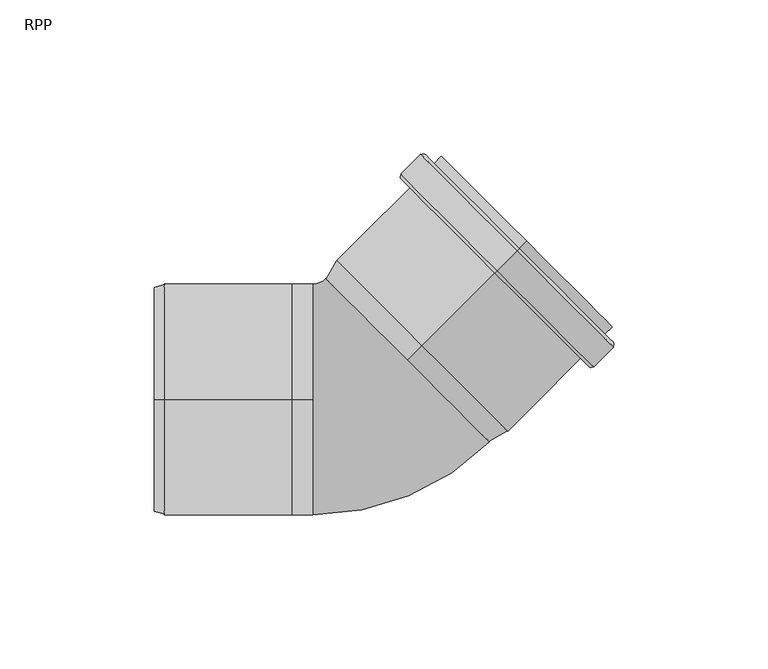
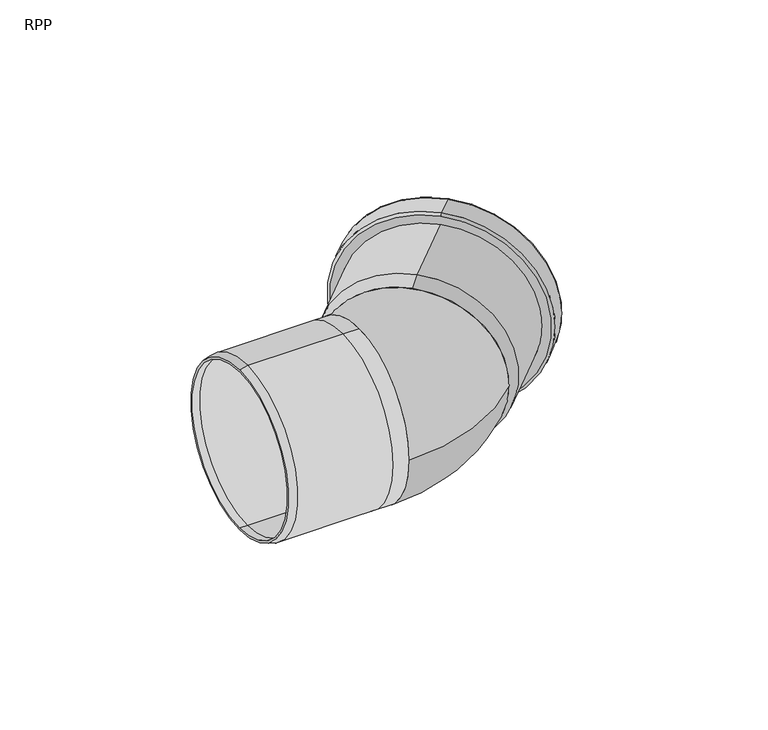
"""IFC4 building model written with IfcOpenShell, lengths in millimetres: pipe fitting geometry, RAUPIANO PLUS Bend_For Gully : RPP."""

from ifc_helpers import new_model, si_unit, point, frame, origin, place, context, project, spatial, polyline, circle_curve, ellipse_curve, trimmed, source, transform, mapped, element, save
from ifc_brep_helpers import plane_surface, cylinder_surface, revolved_surface, advanced_brep


def rpp_debc8a0b(model_context):
    return source(origin(), model_context, "Body", "AdvancedBrep", [
        advanced_brep(
        [(-18.0, 0.0, 37.5), (-18.0, 0.0, -37.5), (-24.8, 0.0, -37.5), (-24.8, 0.0, 37.5), (-24.8, 0.0, 35.6), (-24.8, 0.0, -35.6), (-18.0, 0.0, -35.6), (-18.0, 0.0, 35.6), (-66.2, 0.0, 35.6), (-66.2, 0.0, -35.6), (-69.6, 0.0, 35.6), (-69.6, 0.0, -35.6), (-66.2, 0.0, 37.5), (-66.2, 0.0, -37.5), (-69.6, 0.0, -36.5889727), (-69.6, 0.0, 36.5889727)],
        [
            (0, 1, circle_curve(frame((-18.0, 0.0, 0.0), z_axis=(-1.0, 0.0, 0.0), x_axis=(0.0, 0.0, -1.0)), 37.5)),
            (1, 2),
            (2, 3, circle_curve(frame((-24.8, 0.0, 0.0), z_axis=(1.0, 0.0, 0.0), x_axis=(0.0, 0.0, -1.0)), 37.5)),
            (3, 0),
            (4, 5, circle_curve(frame((-24.8, 0.0, 0.0), z_axis=(-1.0, 0.0, 0.0), x_axis=(0.0, 0.0, -1.0)), 35.6)),
            (5, 6),
            (6, 7, circle_curve(frame((-18.0, 0.0, 0.0), z_axis=(1.0, 0.0, 0.0), x_axis=(0.0, 0.0, -1.0)), 35.6)),
            (7, 4),
            (8, 9, circle_curve(frame((-66.2, 0.0, 0.0), z_axis=(-1.0, 0.0, 0.0), x_axis=(0.0, 0.0, -1.0)), 35.6)),
            (9, 5),
            (4, 8),
            (10, 11, circle_curve(frame((-69.6, 0.0, 0.0), z_axis=(-1.0, 0.0, 0.0), x_axis=(0.0, 0.0, -1.0)), 35.6)),
            (11, 9),
            (8, 10),
            (12, 13, circle_curve(frame((-66.2, 0.0, 0.0), z_axis=(-1.0, 0.0, 0.0), x_axis=(0.0, 0.0, -1.0)), 37.5)),
            (13, 14),
            (14, 15, circle_curve(frame((-69.6, 0.0, 0.0), z_axis=(1.0, 0.0, 0.0), x_axis=(0.0, 0.0, -1.0)), 36.5889727)),
            (15, 12),
            (2, 13),
            (12, 3),
            (1, 0, circle_curve(frame((-18.0, 0.0, 0.0), z_axis=(-1.0, 0.0, 0.0), x_axis=(0.0, 0.0, 1.0)), 37.5)),
            (3, 2, circle_curve(frame((-24.8, 0.0, 0.0), z_axis=(1.0, 0.0, 0.0), x_axis=(0.0, 0.0, 1.0)), 37.5)),
            (6, 7, circle_curve(frame((-18.0, 0.0, 0.0), z_axis=(-1.0, 0.0, 0.0), x_axis=(0.0, 0.0, 1.0)), 35.6)),
            (5, 4, circle_curve(frame((-24.8, 0.0, 0.0), z_axis=(-1.0, 0.0, 0.0), x_axis=(0.0, 0.0, 1.0)), 35.6)),
            (9, 8, circle_curve(frame((-66.2, 0.0, 0.0), z_axis=(-1.0, 0.0, 0.0), x_axis=(0.0, 0.0, 1.0)), 35.6)),
            (11, 10, circle_curve(frame((-69.6, 0.0, 0.0), z_axis=(-1.0, 0.0, 0.0), x_axis=(0.0, 0.0, 1.0)), 35.6)),
            (14, 15, circle_curve(frame((-69.6, 0.0, 0.0), z_axis=(-1.0, 0.0, 0.0), x_axis=(0.0, 0.0, 1.0)), 36.5889727)),
            (13, 12, circle_curve(frame((-66.2, 0.0, 0.0), z_axis=(-1.0, 0.0, 0.0), x_axis=(0.0, 0.0, 1.0)), 37.5)),
        ],
        [
            cylinder_surface(frame((0.0, 0.0, 0.0), z_axis=(1.0, 0.0, 0.0), x_axis=(0.0, 0.0, -1.0)), 37.5),
            revolved_surface(polyline([(-18.0, 0.0, -35.6), (-24.8, 0.0, -35.6)]), (0.0, 0.0, 0.0), (1.0, 0.0, 0.0)),
            revolved_surface(polyline([(-24.8, 0.0, -35.6), (-66.2, 0.0, -35.6)]), (0.0, 0.0, 0.0), (1.0, 0.0, 0.0)),
            revolved_surface(polyline([(-66.2, 0.0, -35.6), (-69.6, 0.0, -35.6)]), (0.0, 0.0, 0.0), (1.0, 0.0, 0.0)),
            revolved_surface(polyline([(-69.6, 0.0, -36.5889727), (-66.2, 0.0, -37.5)]), (0.0, 0.0, 0.0), (1.0, 0.0, 0.0)),
            cylinder_surface(frame((0.0, 0.0, 0.0), z_axis=(1.0, 0.0, 0.0), x_axis=(0.0, 0.0, 1.0)), 37.5),
            plane_surface(frame((-18.0, 0.0, 0.0), z_axis=(1.0, 0.0, 0.0), x_axis=(0.0, 0.0, 1.0))),
            revolved_surface(polyline([(-18.0, 0.0, 35.6), (-24.8, 0.0, 35.6)]), (0.0, 0.0, 0.0), (1.0, 0.0, 0.0)),
            revolved_surface(polyline([(-24.8, 0.0, 35.6), (-66.2, 0.0, 35.6)]), (0.0, 0.0, 0.0), (1.0, 0.0, 0.0)),
            revolved_surface(polyline([(-66.2, 0.0, 35.6), (-69.6, 0.0, 35.6)]), (0.0, 0.0, 0.0), (1.0, 0.0, 0.0)),
            plane_surface(frame((-69.6, 0.0, 0.0), z_axis=(-1.0, 0.0, 0.0), x_axis=(0.0, 0.0, 1.0))),
            revolved_surface(polyline([(-69.6, 0.0, 36.5889727), (-66.2, 0.0, 37.5)]), (0.0, 0.0, 0.0), (1.0, 0.0, 0.0)),
        ],
        [
            (0, [[1, 2, 3, 4]]),
            (1, [[5, 6, 7, 8]]),
            (2, [[9, 10, -5, 11]]),
            (3, [[12, 13, -9, 14]]),
            (4, [[15, 16, 17, 18]]),
            (0, [[-3, 19, -15, 20]]),
            (5, [[21, -4, 22, -2]]),
            (6, [[-21, -1], [23, -7]]),
            (7, [[24, -8, -23, -6]]),
            (8, [[25, -11, -24, -10]]),
            (9, [[26, -14, -25, -13]]),
            (10, [[27, -17], [-26, -12]]),
            (11, [[28, -18, -27, -16]]),
            (5, [[-22, -20, -28, -19]]),
        ],
    ),
        advanced_brep(
        [(12.7279221, 12.7279221, 37.5), (12.7279221, 12.7279221, -37.5), (17.3948268, 17.3948268, -39.2684647), (17.3948268, 17.3948268, 39.2684647), (17.3948268, 17.3948268, 37.3684647), (17.3948268, 17.3948268, -37.3684647), (12.7279221, 12.7279221, -35.6), (12.7279221, 12.7279221, 35.6), (49.0024999, 49.0024999, 37.3684647), (49.0024999, 49.0024999, -37.3684647), (51.3359523, 51.3359523, 37.3684647), (51.3359523, 51.3359523, -37.3684647), (49.0024999, 49.0024999, 39.2684647), (49.0024999, 49.0024999, -39.2684647), (51.3359523, 51.3359523, -39.2684647), (51.3359523, 51.3359523, 39.2684647)],
        [
            (0, 1, circle_curve(frame((12.7279221, 12.7279221, 0.0), z_axis=(0.7071067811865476, 0.7071067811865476, 0.0), x_axis=(0.0, 0.0, -1.0)), 37.5)),
            (1, 2),
            (2, 3, circle_curve(frame((17.3948268, 17.3948268, 0.0), z_axis=(-0.7071067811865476, -0.7071067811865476, 0.0), x_axis=(0.0, 0.0, -1.0)), 39.2684647)),
            (3, 0),
            (4, 5, circle_curve(frame((17.3948268, 17.3948268, 0.0), z_axis=(0.7071067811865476, 0.7071067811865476, 0.0), x_axis=(0.0, 0.0, -1.0)), 37.3684647)),
            (5, 6),
            (6, 7, circle_curve(frame((12.7279221, 12.7279221, 0.0), z_axis=(-0.7071067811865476, -0.7071067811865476, 0.0), x_axis=(0.0, 0.0, -1.0)), 35.6)),
            (7, 4),
            (8, 9, circle_curve(frame((49.0024999, 49.0024999, 0.0), z_axis=(0.7071067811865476, 0.7071067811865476, 0.0), x_axis=(0.0, 0.0, -1.0)), 37.3684647)),
            (9, 5),
            (4, 8),
            (10, 11, circle_curve(frame((51.3359523, 51.3359523, 0.0), z_axis=(0.7071067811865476, 0.7071067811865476, 0.0), x_axis=(0.0, 0.0, -1.0)), 37.3684647)),
            (11, 9),
            (8, 10),
            (12, 13, circle_curve(frame((49.0024999, 49.0024999, 0.0), z_axis=(0.7071067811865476, 0.7071067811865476, 0.0), x_axis=(0.0, 0.0, -1.0)), 39.2684647)),
            (13, 14),
            (14, 15, circle_curve(frame((51.3359523, 51.3359523, 0.0), z_axis=(-0.7071067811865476, -0.7071067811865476, 0.0), x_axis=(0.0, 0.0, -1.0)), 39.2684647)),
            (15, 12),
            (2, 13),
            (12, 3),
            (1, 0, circle_curve(frame((12.7279221, 12.7279221, 0.0), z_axis=(0.7071067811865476, 0.7071067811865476, 0.0), x_axis=(0.0, 0.0, 1.0)), 37.5)),
            (3, 2, circle_curve(frame((17.3948268, 17.3948268, 0.0), z_axis=(-0.7071067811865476, -0.7071067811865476, 0.0), x_axis=(0.0, 0.0, 1.0)), 39.2684647)),
            (6, 7, circle_curve(frame((12.7279221, 12.7279221, 0.0), z_axis=(0.7071067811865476, 0.7071067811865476, 0.0), x_axis=(0.0, 0.0, 1.0)), 35.6)),
            (5, 4, circle_curve(frame((17.3948268, 17.3948268, 0.0), z_axis=(0.7071067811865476, 0.7071067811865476, 0.0), x_axis=(0.0, 0.0, 1.0)), 37.3684647)),
            (9, 8, circle_curve(frame((49.0024999, 49.0024999, 0.0), z_axis=(0.7071067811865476, 0.7071067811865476, 0.0), x_axis=(0.0, 0.0, 1.0)), 37.3684647)),
            (11, 10, circle_curve(frame((51.3359523, 51.3359523, 0.0), z_axis=(0.7071067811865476, 0.7071067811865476, 0.0), x_axis=(0.0, 0.0, 1.0)), 37.3684647)),
            (14, 15, circle_curve(frame((51.3359523, 51.3359523, 0.0), z_axis=(0.7071067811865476, 0.7071067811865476, 0.0), x_axis=(0.0, 0.0, 1.0)), 39.2684647)),
            (13, 12, circle_curve(frame((49.0024999, 49.0024999, 0.0), z_axis=(0.7071067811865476, 0.7071067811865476, 0.0), x_axis=(0.0, 0.0, 1.0)), 39.2684647)),
        ],
        [
            revolved_surface(polyline([(17.3948268, 17.3948268, -39.2684647), (12.7279221, 12.7279221, -37.5)]), (0.0, 0.0, 0.0), (-0.7071067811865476, -0.7071067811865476, 0.0)),
            revolved_surface(polyline([(12.7279221, 12.7279221, -35.6), (17.3948268, 17.3948268, -37.3684647)]), (0.0, 0.0, 0.0), (-0.7071067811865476, -0.7071067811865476, 0.0)),
            revolved_surface(polyline([(17.394826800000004, 17.394826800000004, -37.3684647), (49.0024999, 49.0024999, -37.3684647)]), (0.0, 0.0, 0.0), (-0.7071067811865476, -0.7071067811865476, 0.0)),
            revolved_surface(polyline([(49.0024999, 49.0024999, -37.3684647), (51.33595230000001, 51.33595230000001, -37.3684647)]), (0.0, 0.0, 0.0), (-0.7071067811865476, -0.7071067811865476, 0.0)),
            cylinder_surface(frame((0.0, 0.0, 0.0), z_axis=(-0.7071067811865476, -0.7071067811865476, 0.0), x_axis=(0.0, 0.0, -1.0)), 39.2684647),
            revolved_surface(polyline([(17.3948268, 17.3948268, 39.2684647), (12.7279221, 12.7279221, 37.5)]), (0.0, 0.0, 0.0), (-0.7071067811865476, -0.7071067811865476, 0.0)),
            plane_surface(frame((12.7279221, 12.7279221, 0.0), z_axis=(-0.7071067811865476, -0.7071067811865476, 0.0), x_axis=(0.0, 0.0, 1.0))),
            revolved_surface(polyline([(12.7279221, 12.7279221, 35.6), (17.3948268, 17.3948268, 37.3684647)]), (0.0, 0.0, 0.0), (-0.7071067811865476, -0.7071067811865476, 0.0)),
            revolved_surface(polyline([(17.394826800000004, 17.394826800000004, 37.3684647), (49.0024999, 49.0024999, 37.3684647)]), (0.0, 0.0, 0.0), (-0.7071067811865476, -0.7071067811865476, 0.0)),
            revolved_surface(polyline([(49.0024999, 49.0024999, 37.3684647), (51.33595230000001, 51.33595230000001, 37.3684647)]), (0.0, 0.0, 0.0), (-0.7071067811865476, -0.7071067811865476, 0.0)),
            plane_surface(frame((51.3359523, 51.3359523, 0.0), z_axis=(0.7071067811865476, 0.7071067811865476, 0.0), x_axis=(0.0, 0.0, 1.0))),
            cylinder_surface(frame((0.0, 0.0, 0.0), z_axis=(-0.7071067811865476, -0.7071067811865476, 0.0), x_axis=(0.0, 0.0, 1.0)), 39.2684647),
        ],
        [
            (0, [[1, 2, 3, 4]]),
            (1, [[5, 6, 7, 8]]),
            (2, [[9, 10, -5, 11]]),
            (3, [[12, 13, -9, 14]]),
            (4, [[15, 16, 17, 18]]),
            (4, [[-3, 19, -15, 20]]),
            (5, [[21, -4, 22, -2]]),
            (6, [[-21, -1], [23, -7]]),
            (7, [[24, -8, -23, -6]]),
            (8, [[25, -11, -24, -10]]),
            (9, [[26, -14, -25, -13]]),
            (10, [[27, -17], [-26, -12]]),
            (11, [[28, -18, -27, -16]]),
            (11, [[-22, -20, -28, -19]]),
        ],
    ),
        advanced_brep(
        [(49.0024999, 49.0024999, -39.2684647), (49.0024999, 49.0024999, 39.2684647), (41.082904, 41.082904, 39.2684647), (41.082904, 41.082904, -39.2684647), (48.2953932, 48.2953932, -44.2684647), (48.2953932, 48.2953932, 44.2684647), (49.0024999, 49.0024999, 43.2684647), (49.0024999, 49.0024999, -43.2684647), (41.7900108, 41.7900108, -44.2684647), (41.7900108, 41.7900108, 44.2684647), (41.082904, 41.082904, -43.2684647), (41.082904, 41.082904, 43.2684647)],
        [
            (0, 1, circle_curve(frame((49.0024999, 49.0024999, 0.0), z_axis=(0.7071067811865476, 0.7071067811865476, 0.0), x_axis=(0.0, 0.0, 1.0)), 39.2684647)),
            (1, 2),
            (2, 3, circle_curve(frame((41.082904, 41.082904, 0.0), z_axis=(-0.7071067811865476, -0.7071067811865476, 0.0), x_axis=(0.0, 0.0, 1.0)), 39.2684647)),
            (3, 0),
            (4, 5, circle_curve(frame((48.2953932, 48.2953932, 0.0), z_axis=(0.7071067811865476, 0.7071067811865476, 0.0), x_axis=(0.0, 0.0, 1.0)), 44.2684647)),
            (5, 6, circle_curve(frame((48.2953932, 48.2953932, 43.2684647), z_axis=(-0.7071067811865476, 0.7071067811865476, 0.0), x_axis=(-0.7071067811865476, -0.7071067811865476, 0.0)), 1.0)),
            (6, 7, circle_curve(frame((49.0024999, 49.0024999, 0.0), z_axis=(-0.7071067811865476, -0.7071067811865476, 0.0), x_axis=(0.0, 0.0, 1.0)), 43.2684647)),
            (7, 4, circle_curve(frame((48.2953932, 48.2953932, -43.2684647), z_axis=(-0.7071067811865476, 0.7071067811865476, 0.0), x_axis=(-0.7071067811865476, -0.7071067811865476, 0.0)), 1.0)),
            (8, 9, circle_curve(frame((41.7900108, 41.7900108, 0.0), z_axis=(0.7071067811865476, 0.7071067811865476, 0.0), x_axis=(0.0, 0.0, 1.0)), 44.2684647)),
            (9, 5),
            (4, 8),
            (10, 11, circle_curve(frame((41.082904, 41.082904, 0.0), z_axis=(0.7071067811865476, 0.7071067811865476, 0.0), x_axis=(0.0, 0.0, 1.0)), 43.2684647)),
            (11, 9, circle_curve(frame((41.7900108, 41.7900108, 43.2684647), z_axis=(-0.7071067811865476, 0.7071067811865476, 0.0), x_axis=(-0.7071067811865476, -0.7071067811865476, 0.0)), 1.0)),
            (8, 10, circle_curve(frame((41.7900108, 41.7900108, -43.2684647), z_axis=(-0.7071067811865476, 0.7071067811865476, 0.0), x_axis=(-0.7071067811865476, -0.7071067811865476, 0.0)), 1.0)),
            (1, 0, circle_curve(frame((49.0024999, 49.0024999, 0.0), z_axis=(0.7071067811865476, 0.7071067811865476, 0.0), x_axis=(0.0, 0.0, -1.0)), 39.2684647)),
            (3, 2, circle_curve(frame((41.082904, 41.082904, 0.0), z_axis=(-0.7071067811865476, -0.7071067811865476, 0.0), x_axis=(0.0, 0.0, -1.0)), 39.2684647)),
            (6, 7, circle_curve(frame((49.0024999, 49.0024999, 0.0), z_axis=(0.7071067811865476, 0.7071067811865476, 0.0), x_axis=(0.0, 0.0, -1.0)), 43.2684647)),
            (5, 4, circle_curve(frame((48.2953932, 48.2953932, 0.0), z_axis=(0.7071067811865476, 0.7071067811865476, 0.0), x_axis=(0.0, 0.0, -1.0)), 44.2684647)),
            (9, 8, circle_curve(frame((41.7900108, 41.7900108, 0.0), z_axis=(0.7071067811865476, 0.7071067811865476, 0.0), x_axis=(0.0, 0.0, -1.0)), 44.2684647)),
            (11, 10, circle_curve(frame((41.082904, 41.082904, 0.0), z_axis=(0.7071067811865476, 0.7071067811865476, 0.0), x_axis=(0.0, 0.0, -1.0)), 43.2684647)),
        ],
        [
            revolved_surface(polyline([(41.082904, 41.082904, 39.2684647), (49.0024999, 49.0024999, 39.2684647)]), (49.0024999, 49.0024999, 0.0), (-0.7071067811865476, -0.7071067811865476, 0.0)),
            revolved_surface(trimmed(ellipse_curve(frame((48.2953932, 48.2953932, 43.2684647), z_axis=(0.7071067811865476, -0.7071067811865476, 0.0), x_axis=(-0.7071067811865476, -0.7071067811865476, 0.0)), 1.0, 1.0), [point((49.0024999, 49.0024999, 43.2684647))], [point((48.2953932, 48.2953932, 44.2684647))], True, "CARTESIAN"), (49.0024999, 49.0024999, 0.0), (-0.7071067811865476, -0.7071067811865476, 0.0)),
            cylinder_surface(frame((49.0024999, 49.0024999, 0.0), z_axis=(-0.7071067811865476, -0.7071067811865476, 0.0), x_axis=(0.0, 0.0, 1.0)), 44.2684647),
            revolved_surface(trimmed(ellipse_curve(frame((41.7900108, 41.7900108, 43.2684647), z_axis=(0.7071067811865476, -0.7071067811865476, 0.0), x_axis=(-0.7071067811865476, -0.7071067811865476, 0.0)), 1.0, 1.0), [point((41.7900108, 41.7900108, 44.2684647))], [point((41.082904, 41.082904, 43.2684647))], True, "CARTESIAN"), (49.0024999, 49.0024999, 0.0), (-0.7071067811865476, -0.7071067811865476, 0.0)),
            revolved_surface(polyline([(41.082904, 41.082904, -39.2684647), (49.0024999, 49.0024999, -39.2684647)]), (49.0024999, 49.0024999, 0.0), (-0.7071067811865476, -0.7071067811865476, 0.0)),
            plane_surface(frame((49.0024999, 49.0024999, 0.0), z_axis=(0.7071067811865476, 0.7071067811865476, 0.0), x_axis=(0.0, 0.0, -1.0))),
            revolved_surface(trimmed(ellipse_curve(frame((48.2953932, 48.2953932, -43.2684647), z_axis=(-0.7071067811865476, 0.7071067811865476, 0.0), x_axis=(-0.7071067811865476, -0.7071067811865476, 0.0)), 1.0, 1.0), [point((49.0024999, 49.0024999, -43.2684647))], [point((48.2953932, 48.2953932, -44.2684647))], True, "CARTESIAN"), (49.0024999, 49.0024999, 0.0), (-0.7071067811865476, -0.7071067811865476, 0.0)),
            cylinder_surface(frame((49.0024999, 49.0024999, 0.0), z_axis=(-0.7071067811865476, -0.7071067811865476, 0.0), x_axis=(0.0, 0.0, -1.0)), 44.2684647),
            revolved_surface(trimmed(ellipse_curve(frame((41.7900108, 41.7900108, -43.2684647), z_axis=(-0.7071067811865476, 0.7071067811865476, 0.0), x_axis=(-0.7071067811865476, -0.7071067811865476, 0.0)), 1.0, 1.0), [point((41.7900108, 41.7900108, -44.2684647))], [point((41.082904, 41.082904, -43.2684647))], True, "CARTESIAN"), (49.0024999, 49.0024999, 0.0), (-0.7071067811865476, -0.7071067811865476, 0.0)),
            plane_surface(frame((41.082904, 41.082904, 0.0), z_axis=(-0.7071067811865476, -0.7071067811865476, 0.0), x_axis=(0.0, 0.0, -1.0))),
        ],
        [
            (0, [[1, 2, 3, 4]]),
            (1, [[5, 6, 7, 8]]),
            (2, [[9, 10, -5, 11]]),
            (3, [[12, 13, -9, 14]]),
            (4, [[15, -4, 16, -2]]),
            (5, [[17, -7], [-15, -1]]),
            (6, [[18, -8, -17, -6]]),
            (7, [[19, -11, -18, -10]]),
            (8, [[20, -14, -19, -13]]),
            (9, [[-20, -12], [-16, -3]]),
        ],
    ),
        advanced_brep(
        [(-18.0, -37.5, 0.0), (-18.0, 37.5, 0.0), (-18.0, -35.6, 0.0), (-18.0, 35.6, 0.0), (39.2444264, -13.7885822, 0.0), (-13.7885822, 39.2444264, 0.0), (37.9009235, -12.4450793, 0.0), (-12.4450793, 37.9009235, 0.0)],
        [
            (0, 1, circle_curve(frame((-18.0, 0.0, 0.0), z_axis=(-1.0, 0.0, 0.0), x_axis=(0.0, 1.0, 0.0)), 37.5)),
            (1, 0, circle_curve(frame((-18.0, 0.0, 0.0), z_axis=(-1.0, 0.0, 0.0), x_axis=(0.0, 1.0, 0.0)), 37.5)),
            (2, 3, circle_curve(frame((-18.0, 0.0, 0.0), z_axis=(1.0, 0.0, 0.0), x_axis=(0.0, 1.0, 0.0)), 35.6)),
            (3, 2, circle_curve(frame((-18.0, 0.0, 0.0), z_axis=(1.0, 0.0, 0.0), x_axis=(0.0, 1.0, 0.0)), 35.6)),
            (4, 5, circle_curve(frame((12.7279221, 12.7279221, 0.0), z_axis=(0.7071067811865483, 0.7071067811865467, 0.0), x_axis=(-0.7071067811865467, 0.7071067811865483, 0.0)), 37.5)),
            (5, 4, circle_curve(frame((12.7279221, 12.7279221, 0.0), z_axis=(0.7071067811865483, 0.7071067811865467, 0.0), x_axis=(-0.7071067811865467, 0.7071067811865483, 0.0)), 37.5)),
            (6, 7, circle_curve(frame((12.7279221, 12.7279221, 0.0), z_axis=(-0.7071067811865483, -0.7071067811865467, 0.0), x_axis=(-0.7071067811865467, 0.7071067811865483, 0.0)), 35.6)),
            (7, 6, circle_curve(frame((12.7279221, 12.7279221, 0.0), z_axis=(-0.7071067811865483, -0.7071067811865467, 0.0), x_axis=(-0.7071067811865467, 0.7071067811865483, 0.0)), 35.6)),
            (5, 1, circle_curve(frame((-18.0, 43.4558441, 0.0), z_axis=(0.0, 0.0, -1.0), x_axis=(0.0, -1.0, 0.0)), 5.9558441)),
            (0, 4, circle_curve(frame((-18.0, 43.4558441, 0.0), z_axis=(0.0, 0.0, 1.0), x_axis=(0.0, -1.0, 0.0)), 80.9558441)),
            (7, 3, circle_curve(frame((-18.0, 43.4558441, 0.0), z_axis=(0.0, 0.0, -1.0), x_axis=(0.0, -1.0, 0.0)), 7.8558441)),
            (2, 6, circle_curve(frame((-18.0, 43.4558441, 0.0), z_axis=(0.0, 0.0, 1.0), x_axis=(0.0, -1.0, 0.0)), 79.0558441)),
        ],
        [
            plane_surface(frame((-18.0, 0.0, 0.0), z_axis=(-1.0, 0.0, 0.0), x_axis=(0.0, 0.0, 1.0))),
            plane_surface(frame((12.7279221, 12.7279221, 0.0), z_axis=(0.7071067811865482, 0.707106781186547, 0.0), x_axis=(0.0, 0.0, 1.0))),
            revolved_surface(trimmed(ellipse_curve(frame((-18.0, 0.0, 0.0), z_axis=(-1.0, 0.0, 0.0), x_axis=(0.0, 1.0, 0.0)), 37.5, 37.5), [point((-18.0, -37.5, 0.0))], [point((-18.0, 37.5, 0.0))], True, "CARTESIAN"), (-18.0, 43.4558441, 0.0), (0.0, 0.0, 1.0)),
            revolved_surface(trimmed(ellipse_curve(frame((-18.0, 0.0, 0.0), z_axis=(-1.0, 0.0, 0.0), x_axis=(0.0, 1.0, 0.0)), 37.5, 37.5), [point((-18.0, 37.5, 0.0))], [point((-18.0, -37.5, 0.0))], True, "CARTESIAN"), (-18.0, 43.4558441, 0.0), (0.0, 0.0, 1.0)),
            revolved_surface(trimmed(ellipse_curve(frame((-18.0, 0.0, 0.0), z_axis=(1.0, 0.0, 0.0), x_axis=(0.0, 1.0, 0.0)), 35.6, 35.6), [point((-18.0, -35.6, 0.0))], [point((-18.0, 35.6, 0.0))], True, "CARTESIAN"), (-18.0, 43.4558441, 0.0), (0.0, 0.0, 1.0)),
            revolved_surface(trimmed(ellipse_curve(frame((-18.0, 0.0, 0.0), z_axis=(1.0, 0.0, 0.0), x_axis=(0.0, 1.0, 0.0)), 35.6, 35.6), [point((-18.0, 35.6, 0.0))], [point((-18.0, -35.6, 0.0))], True, "CARTESIAN"), (-18.0, 43.4558441, 0.0), (0.0, 0.0, 1.0)),
        ],
        [
            (0, [[1, 2], [3, 4]]),
            (1, [[5, 6], [7, 8]]),
            (2, [[9, -1, 10, -6]]),
            (3, [[-10, -2, -9, -5]]),
            (4, [[11, -3, 12, -8]]),
            (5, [[-12, -4, -11, -7]]),
        ],
    ),
    ])


if __name__ == "__main__":
    model = new_model("IFC4")
    model_context = context("Model", 3, world=origin())
    ifc_project = project(units=[si_unit("LENGTHUNIT", "METRE", prefix="MILLI")], contexts=[model_context])
    site = spatial("IfcSite", under=ifc_project)
    building = spatial("IfcBuilding", under=site)
    placement = place(None, origin())
    rpp_shape = rpp_debc8a0b(model_context)
    element("IfcPipeFitting", 1, ObjectType="RAUPIANO PLUS Bend_For Gully : RPP", at=placement, inside=building, context=model_context, shape_type="MappedRepresentation", body=[
        mapped(rpp_shape, transform((0.0, 0.0, 0.0), x_axis=(1.0, 0.0, 0.0), y_axis=(0.0, 1.0, 0.0), z_axis=(0.0, 0.0, 1.0))),
    ])
    save(model, "model.ifc")
